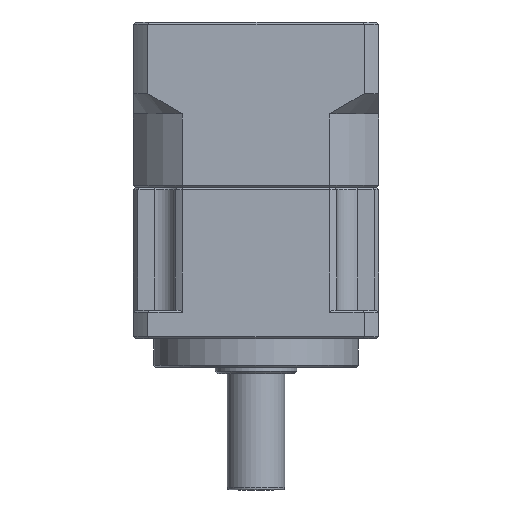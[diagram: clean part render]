
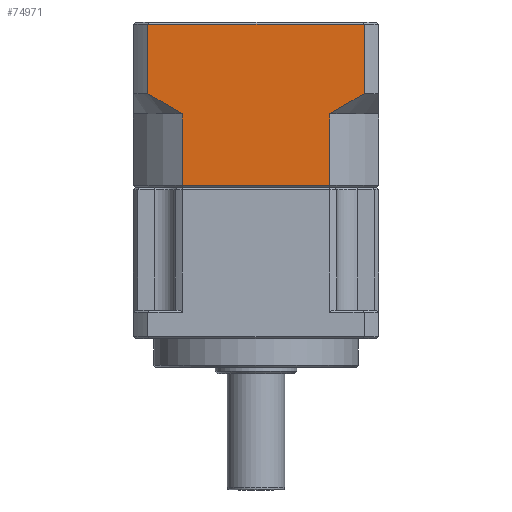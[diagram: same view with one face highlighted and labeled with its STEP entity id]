
A CAD part, front view. The second image highlights one B-rep face of the part: STEP entity #74971.
In plain terms, the highlighted planar face has unit normal (0, -1, 0).
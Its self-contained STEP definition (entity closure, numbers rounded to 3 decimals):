
#239 = DIRECTION ( 'NONE',  ( 0., -1., 0. ) ) ;
#1655 = VERTEX_POINT ( 'NONE', #52535 ) ;
#2335 = ORIENTED_EDGE ( 'NONE', *, *, #97220, .F. ) ;
#2705 = CARTESIAN_POINT ( 'NONE',  ( -5.835, -19.087, 134.002 ) ) ;
#7619 = PLANE ( 'NONE',  #56596 ) ;
#7918 = DIRECTION ( 'NONE',  ( 0., 0., 1. ) ) ;
#8534 = LINE ( 'NONE', #22337, #87950 ) ;
#9946 = CARTESIAN_POINT ( 'NONE',  ( -58.75, -19.087, 91.775 ) ) ;
#10383 = CARTESIAN_POINT ( 'NONE',  ( -11.385, -19.087, 130.551 ) ) ;
#10948 = VERTEX_POINT ( 'NONE', #57389 ) ;
#11971 = LINE ( 'NONE', #41312, #70918 ) ;
#13872 = LINE ( 'NONE', #47166, #31940 ) ;
#14992 = CARTESIAN_POINT ( 'NONE',  ( -50.32, -19.087, 111.502 ) ) ;
#15983 = CARTESIAN_POINT ( 'NONE',  ( -14.265, -19.087, 111.502 ) ) ;
#17028 = EDGE_CURVE ( 'NONE', #76567, #35404, #19697, .T. ) ;
#17756 = VERTEX_POINT ( 'NONE', #14992 ) ;
#18119 = CARTESIAN_POINT ( 'NONE',  ( -14.265, -19.087, 129.002 ) ) ;
#18203 = EDGE_CURVE ( 'NONE', #48814, #17756, #8534, .T. ) ;
#19697 = LINE ( 'NONE', #89201, #58212 ) ;
#22337 = CARTESIAN_POINT ( 'NONE',  ( -2.293, -19.087, 111.502 ) ) ;
#25763 = B_SPLINE_CURVE_WITH_KNOTS ( 'NONE', 3,
 ( #2705, #48711, #56452, #10383, #64175, #18119 ),
 .UNSPECIFIED., .F., .F.,
 ( 4, 2, 4 ),
 ( 0., 0.005, 0.01 ),
 .UNSPECIFIED. ) ;
#26468 = CARTESIAN_POINT ( 'NONE',  ( -58.75, -19.087, 134.002 ) ) ;
#30187 = VECTOR ( 'NONE', #71991, 1000. ) ;
#30769 = DIRECTION ( 'NONE',  ( -1., 0., 0. ) ) ;
#31171 = VERTEX_POINT ( 'NONE', #81450 ) ;
#31940 = VECTOR ( 'NONE', #7918, 1000. ) ;
#34131 = FACE_OUTER_BOUND ( 'NONE', #63229, .T. ) ;
#35395 = CARTESIAN_POINT ( 'NONE',  ( -53.2, -19.087, 130.551 ) ) ;
#35404 = VERTEX_POINT ( 'NONE', #71575 ) ;
#35443 = ORIENTED_EDGE ( 'NONE', *, *, #82594, .F. ) ;
#41312 = CARTESIAN_POINT ( 'NONE',  ( -14.265, -19.087, 91.775 ) ) ;
#41905 = EDGE_CURVE ( 'NONE', #35404, #1655, #42153, .T. ) ;
#42153 = LINE ( 'NONE', #56517, #30187 ) ;
#43094 = CARTESIAN_POINT ( 'NONE',  ( -57.386, -19.087, 133.1 ) ) ;
#43194 = CARTESIAN_POINT ( 'NONE',  ( -58.75, -19.087, 151.002 ) ) ;
#45879 = VERTEX_POINT ( 'NONE', #26468 ) ;
#46190 = CARTESIAN_POINT ( 'NONE',  ( -2.293, -19.087, 111.002 ) ) ;
#47166 = CARTESIAN_POINT ( 'NONE',  ( -50.32, -19.087, 91.775 ) ) ;
#48711 = CARTESIAN_POINT ( 'NONE',  ( -7.199, -19.087, 133.1 ) ) ;
#48814 = VERTEX_POINT ( 'NONE', #15983 ) ;
#51742 = LINE ( 'NONE', #9946, #72211 ) ;
#52535 = CARTESIAN_POINT ( 'NONE',  ( -5.835, -19.087, 134.002 ) ) ;
#53950 = DIRECTION ( 'NONE',  ( 0., 0., -1. ) ) ;
#55990 = DIRECTION ( 'NONE',  ( 0., 0., 1. ) ) ;
#56452 = CARTESIAN_POINT ( 'NONE',  ( -8.58, -19.087, 132.225 ) ) ;
#56517 = CARTESIAN_POINT ( 'NONE',  ( -5.835, -19.087, 91.775 ) ) ;
#56596 = AXIS2_PLACEMENT_3D ( 'NONE', #46190, #239, #53950 ) ;
#57389 = CARTESIAN_POINT ( 'NONE',  ( -50.32, -19.087, 129.002 ) ) ;
#58212 = VECTOR ( 'NONE', #89513, 1000. ) ;
#58917 = ORIENTED_EDGE ( 'NONE', *, *, #41905, .F. ) ;
#59076 = EDGE_CURVE ( 'NONE', #17756, #10948, #13872, .T. ) ;
#62224 = ORIENTED_EDGE ( 'NONE', *, *, #18203, .F. ) ;
#63229 = EDGE_LOOP ( 'NONE', ( #58917, #80761, #2335, #35443, #78672, #62224, #96267, #99683 ) ) ;
#64175 = CARTESIAN_POINT ( 'NONE',  ( -12.81, -19.087, 129.751 ) ) ;
#70918 = VECTOR ( 'NONE', #72657, 1000. ) ;
#71575 = CARTESIAN_POINT ( 'NONE',  ( -5.835, -19.087, 151.002 ) ) ;
#71991 = DIRECTION ( 'NONE',  ( 0., 0., -1. ) ) ;
#72211 = VECTOR ( 'NONE', #55990, 1000. ) ;
#72657 = DIRECTION ( 'NONE',  ( 0., 0., -1. ) ) ;
#73462 = CARTESIAN_POINT ( 'NONE',  ( -50.32, -19.087, 129.002 ) ) ;
#73785 = CARTESIAN_POINT ( 'NONE',  ( -51.775, -19.087, 129.751 ) ) ;
#74971 = ADVANCED_FACE ( 'NONE', ( #34131 ), #7619, .T. ) ;
#76567 = VERTEX_POINT ( 'NONE', #43194 ) ;
#77171 = B_SPLINE_CURVE_WITH_KNOTS ( 'NONE', 3,
 ( #73462, #73785, #35395, #89248, #43094, #96995 ),
 .UNSPECIFIED., .F., .F.,
 ( 4, 2, 4 ),
 ( 0., 0.005, 0.01 ),
 .UNSPECIFIED. ) ;
#77725 = EDGE_CURVE ( 'NONE', #31171, #48814, #11971, .T. ) ;
#78672 = ORIENTED_EDGE ( 'NONE', *, *, #59076, .F. ) ;
#80761 = ORIENTED_EDGE ( 'NONE', *, *, #17028, .F. ) ;
#81450 = CARTESIAN_POINT ( 'NONE',  ( -14.265, -19.087, 129.002 ) ) ;
#82594 = EDGE_CURVE ( 'NONE', #10948, #45879, #77171, .T. ) ;
#87950 = VECTOR ( 'NONE', #30769, 1000. ) ;
#89201 = CARTESIAN_POINT ( 'NONE',  ( -2.293, -19.087, 151.002 ) ) ;
#89248 = CARTESIAN_POINT ( 'NONE',  ( -56.006, -19.087, 132.225 ) ) ;
#89513 = DIRECTION ( 'NONE',  ( 1., 0., 0. ) ) ;
#91517 = EDGE_CURVE ( 'NONE', #1655, #31171, #25763, .T. ) ;
#96267 = ORIENTED_EDGE ( 'NONE', *, *, #77725, .F. ) ;
#96995 = CARTESIAN_POINT ( 'NONE',  ( -58.75, -19.087, 134.002 ) ) ;
#97220 = EDGE_CURVE ( 'NONE', #45879, #76567, #51742, .T. ) ;
#99683 = ORIENTED_EDGE ( 'NONE', *, *, #91517, .F. ) ;
